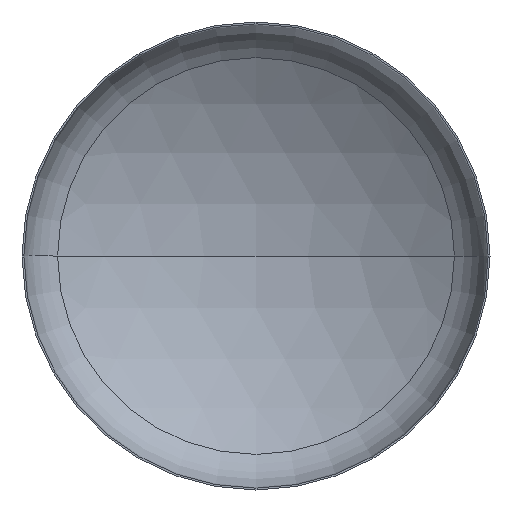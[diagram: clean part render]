
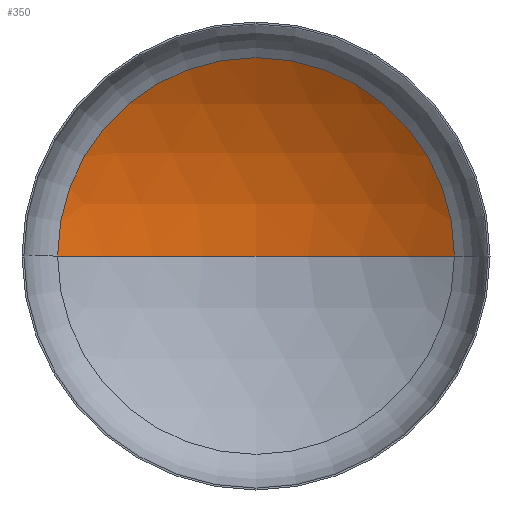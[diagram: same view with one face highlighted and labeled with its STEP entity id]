
A CAD part, front view. The second image highlights one B-rep face of the part: STEP entity #350.
In plain terms, the highlighted spherical face has radius 2400 mm.
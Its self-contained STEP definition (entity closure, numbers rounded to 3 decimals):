
#10 = ORIENTED_EDGE ( 'NONE', *, *, #402, .T. ) ;
#11 = ORIENTED_EDGE ( 'NONE', *, *, #389, .T. ) ;
#15 = CIRCLE ( 'NONE', #203, 2400. ) ;
#18 = EDGE_LOOP ( 'NONE', ( #22, #11, #10 ) ) ;
#22 = ORIENTED_EDGE ( 'NONE', *, *, #375, .F. ) ;
#39 = VERTEX_POINT ( 'NONE', #254 ) ;
#43 = VERTEX_POINT ( 'NONE', #372 ) ;
#55 = FACE_OUTER_BOUND ( 'NONE', #18, .T. ) ;
#72 = CARTESIAN_POINT ( 'NONE',  ( 0., -1605.24, 0. ) ) ;
#85 = DIRECTION ( 'NONE',  ( 1., 0., 0. ) ) ;
#98 = VERTEX_POINT ( 'NONE', #326 ) ;
#131 = CARTESIAN_POINT ( 'NONE',  ( 0., 430.109, 0. ) ) ;
#134 = DIRECTION ( 'NONE',  ( 0., -1., 0. ) ) ;
#161 = AXIS2_PLACEMENT_3D ( 'NONE', #297, #253, #378 ) ;
#175 = DIRECTION ( 'NONE',  ( -1., 0., 0. ) ) ;
#177 = CARTESIAN_POINT ( 'NONE',  ( 0., -1605.24, 0. ) ) ;
#203 = AXIS2_PLACEMENT_3D ( 'NONE', #72, #327, #175 ) ;
#216 = AXIS2_PLACEMENT_3D ( 'NONE', #177, #360, #85 ) ;
#226 = CIRCLE ( 'NONE', #216, 2400. ) ;
#253 = DIRECTION ( 'NONE',  ( 0., 0., -1. ) ) ;
#254 = CARTESIAN_POINT ( 'NONE',  ( 0., 794.76, 0. ) ) ;
#255 = AXIS2_PLACEMENT_3D ( 'NONE', #131, #134, #257 ) ;
#257 = DIRECTION ( 'NONE',  ( 1., 0., 0. ) ) ;
#297 = CARTESIAN_POINT ( 'NONE',  ( 0., -1605.24, 0. ) ) ;
#326 = CARTESIAN_POINT ( 'NONE',  ( 1271.753, 430.109, 0. ) ) ;
#327 = DIRECTION ( 'NONE',  ( 0., 0., -1. ) ) ;
#350 = ADVANCED_FACE ( 'NONE', ( #55 ), #370, .F. ) ;
#356 = CIRCLE ( 'NONE', #255, 1271.753 ) ;
#360 = DIRECTION ( 'NONE',  ( 0., 0., 1. ) ) ;
#370 = SPHERICAL_SURFACE ( 'NONE', #161, 2400. ) ;
#372 = CARTESIAN_POINT ( 'NONE',  ( -1271.753, 430.109, 0. ) ) ;
#375 = EDGE_CURVE ( 'NONE', #39, #43, #226, .T. ) ;
#378 = DIRECTION ( 'NONE',  ( -1., 0., 0. ) ) ;
#389 = EDGE_CURVE ( 'NONE', #39, #98, #15, .T. ) ;
#402 = EDGE_CURVE ( 'NONE', #98, #43, #356, .T. ) ;
